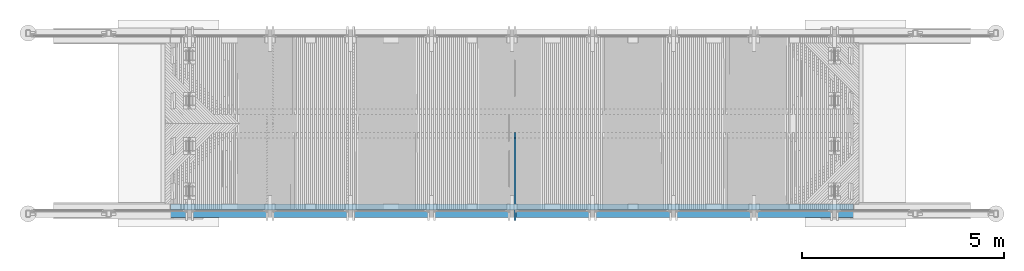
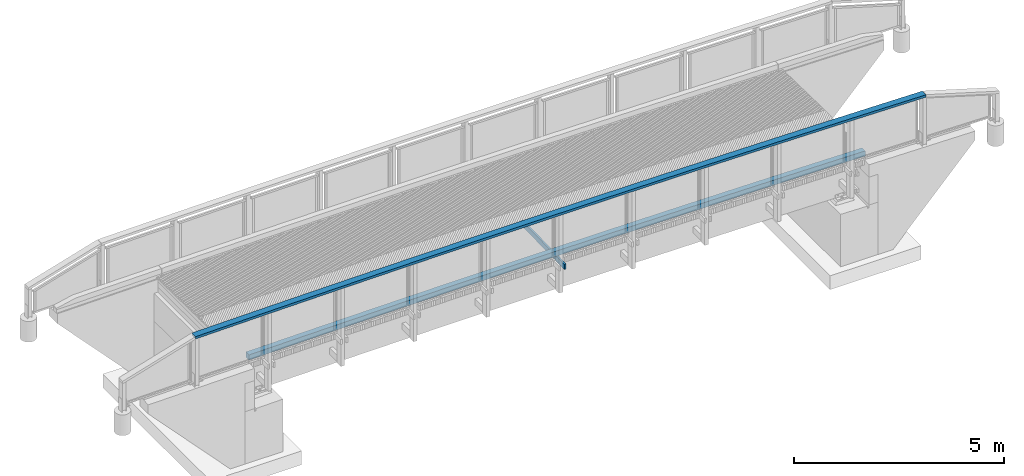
# One storey, part 28 of 65: 3 beams.
"""IFC2X3 building model written with IfcOpenShell, lengths in millimetres."""

from ifc_helpers import new_model, si_unit, frame, origin_with_axes, place, context, subcontext, project, spatial, faceted_brep, material, type_object, element, save


model = new_model("IFC2X3")

# Units and contexts
model_context = context("Model", 3, precision=1e-05, world=origin_with_axes())
body_context = subcontext(model_context, "Body", "Model", "MODEL_VIEW")
ifc_project = project(units=[si_unit("LENGTHUNIT", "METRE", prefix="MILLI"), si_unit("AREAUNIT", "SQUARE_METRE"), si_unit("VOLUMEUNIT", "CUBIC_METRE"), si_unit("MASSUNIT", "GRAM", prefix="KILO"), si_unit("TIMEUNIT", "SECOND"), si_unit("PLANEANGLEUNIT", "RADIAN"), si_unit("SOLIDANGLEUNIT", "STERADIAN"), si_unit("THERMODYNAMICTEMPERATUREUNIT", "DEGREE_CELSIUS"), si_unit("LUMINOUSINTENSITYUNIT", "LUMEN")], contexts=[model_context])

# Site, building, storey
site_placement = place(None, origin_with_axes())
site = spatial("IfcSite", under=ifc_project, at=site_placement, Name="Undefined", CompositionType="ELEMENT")
building_placement = place(site_placement, origin_with_axes())
building = spatial("IfcBuilding", under=site, at=building_placement, Name="Undefined", CompositionType="ELEMENT")
storey_placement = place(building_placement, origin_with_axes())
storey = spatial("IfcBuildingStorey", under=building, at=storey_placement, Name="Undefined", CompositionType="ELEMENT", Elevation=0.0)

# Beams
ifc_material = material(Name="TIMBER/Timber_Undefined")
beam_type_1 = type_object("IfcBeamType", Name="150*150", PredefinedType="NOTDEFINED")
beam_1_placement = place(storey_placement, frame((-101.638019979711, 20290.0049077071, 3288.62561019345), z_axis=(0.0, -1.0, 0.0), x_axis=(1.0, 0.0, 0.0)))
element("IfcBeam", 1, at=beam_1_placement, inside=storey, type_object=beam_type_1, material=ifc_material, Name="TÖRMÄYSJOHDE", ObjectType="150*150", context=body_context, shape_type="Brep", body=[
    faceted_brep([(-322.982711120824, -79.4552193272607, 75.0), (-325.088810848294, 70.5299944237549, 75.0), (-367.511180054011, 69.9228401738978, 75.0), (-368.361913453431, -80.1046921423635, 75.0), (-325.088810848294, 70.5299944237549, -75.0), (-367.511180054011, 69.9228401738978, -75.0), (-322.982711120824, -79.4552193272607, -75.0), (-368.361913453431, -80.1046921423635, -75.0), (1.01255045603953, -74.9931646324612, -75.0), (1.01255045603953, -74.9931646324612, 75.0), (-1.01255045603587, 74.9931646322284, 75.0), (-1.01255045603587, 74.9931646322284, -75.0), (323.066072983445, 79.2813189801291, -75.0), (325.010174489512, -70.7060820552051, -75.0), (325.010174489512, -70.7060820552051, 75.0), (323.066072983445, 79.2813189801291, 75.0), (647.146964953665, 83.3944562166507, 75.0), (647.146964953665, 83.3944562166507, -75.0), (649.010066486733, -66.5939728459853, -75.0), (649.010066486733, -66.5939728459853, 75.0), (973.012131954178, -62.6568382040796, 75.0), (971.230030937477, 87.3325751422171, 75.0), (971.230030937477, 87.3325751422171, -75.0), (973.012131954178, -62.6568382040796, -75.0), (1297.01627639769, -58.8946792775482, -75.0), (1297.01627639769, -58.8946792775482, 75.0), (1295.3151764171, 91.0956746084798, 75.0), (1295.3151764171, 91.0956746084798, -75.0), (1619.40230687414, 94.6837535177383, -75.0), (1621.0224053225, -55.307497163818, -75.0), (1621.0224053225, -55.307497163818, 75.0), (1619.40230687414, 94.6837535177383, 75.0), (1943.49132778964, 98.096810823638, 75.0), (1943.49132778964, 98.096810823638, -75.0), (1945.03042423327, -51.8952929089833, -75.0), (1945.03042423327, -51.8952929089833, 75.0), (2269.04023863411, -48.6580675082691, 75.0), (2267.58214464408, 101.334845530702, 75.0), (2267.58214464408, 101.334845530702, -75.0), (2269.04023863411, -48.6580675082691, -75.0), (2593.05175402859, -45.5958219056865, -75.0), (2593.05175402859, -45.5958219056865, 75.0), (2591.67466291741, 104.397856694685, 75.0), (2591.67466291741, 104.397856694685, -75.0), (2915.7687880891, 107.285843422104, -75.0), (2917.06487591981, -42.7085569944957, -75.0), (2917.06487591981, -42.7085569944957, 75.0), (2915.7687880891, 107.285843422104, 75.0), (3239.86442563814, 109.998804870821, 75.0), (3239.86442563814, 109.998804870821, -75.0), (3241.07950981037, -39.9962736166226, -75.0), (3241.07950981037, -39.9962736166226, 75.0), (3565.09556120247, -37.4589725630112, 75.0), (3563.96148104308, 112.536740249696, 75.0), (3563.96148104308, 112.536740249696, -75.0), (3565.09556120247, -37.4589725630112, -75.0), (3889.11293559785, -35.0966545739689, -75.0), (3889.11293559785, -35.0966545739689, 75.0), (3888.05985978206, 114.899648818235, 75.0), (3888.05985978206, 114.899648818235, -75.0), (4212.15946733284, 117.087529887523, -75.0), (4213.1315384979, -32.9093203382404, -75.0), (4213.1315384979, -32.9093203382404, 75.0), (4212.15946733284, 117.087529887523, 75.0), (4536.2602091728, 119.100382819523, 75.0), (4536.2602091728, 119.100382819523, -75.0), (4537.15127540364, -30.8969704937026, -75.0), (4537.15127540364, -30.8969704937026, 75.0), (4861.17205181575, -29.0596056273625, 75.0), (4860.36199077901, 120.938207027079, 75.0), (4860.36199077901, 120.938207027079, -75.0), (4861.17205181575, -29.0596056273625, -75.0), (5185.19377323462, -27.3972262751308, -75.0), (5185.19377323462, -27.3972262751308, 75.0), (5184.46471762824, 122.601001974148, 75.0), (5184.46471762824, 122.601001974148, -75.0), (5508.56829519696, 124.088767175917, -75.0), (5509.21634516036, -25.9098329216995, -75.0), (5509.21634516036, -25.9098329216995, 75.0), (5508.56829519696, 124.088767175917, 75.0), (5832.67262896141, 125.401502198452, 75.0), (5832.67262896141, 125.401502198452, -75.0), (5833.23967309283, -24.5974260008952, -75.0), (5833.23967309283, -24.5974260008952, 75.0), (6157.26366253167, -23.4600058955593, 75.0), (6156.77762439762, 126.539206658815, 75.0), (6156.77762439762, 126.539206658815, -75.0), (6157.26366253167, -23.4600058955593, -75.0), (6481.28821897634, -22.4975729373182, -75.0), (6481.28821897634, -22.4975729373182, 75.0), (6480.88318698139, 127.501880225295, 75.0), (6480.88318698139, 127.501880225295, -75.0), (6804.98922218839, 128.289522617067, -75.0), (6805.3132479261, -21.7101274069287, -75.0), (6805.3132479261, -21.7101274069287, 75.0), (6804.98922218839, 128.289522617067, 75.0), (7129.09563549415, 128.902133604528, 75.0), (7129.09563549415, 128.902133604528, -75.0), (7129.33865488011, -21.0976695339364, -75.0), (7129.33865488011, -21.0976695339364, 75.0), (7453.36434533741, -20.6601994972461, 75.0), (7453.20233237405, 129.339713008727, 75.0), (7453.20233237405, 129.339713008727, -75.0), (7453.36434533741, -20.6601994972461, -75.0), (7777.39022479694, -20.3977174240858, -75.0), (7777.39022479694, -20.3977174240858, 75.0), (7777.30921830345, 129.602260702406, 75.0), (7777.30921830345, 129.602260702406, -75.0), (8101.4161987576, 129.689776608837, -75.0), (8101.4161987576, -20.3102233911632, -75.0), (8101.4161987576, -20.3102233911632, 75.0), (8101.4161987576, 129.689776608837, 75.0), (8425.52317921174, 129.602260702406, 75.0), (8425.52317921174, 129.602260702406, -75.0), (8425.44217271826, -20.3977174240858, -75.0), (8425.44217271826, -20.3977174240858, 75.0), (8749.46805217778, -20.6601994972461, 75.0), (8749.63006514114, 129.339713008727, 75.0), (8749.63006514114, 129.339713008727, -75.0), (8749.46805217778, -20.6601994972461, -75.0), (9073.49374263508, -21.0976695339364, -75.0), (9073.49374263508, -21.0976695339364, 75.0), (9073.73676202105, 128.902133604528, 75.0), (9073.73676202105, 128.902133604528, -75.0), (9397.8431753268, 128.289522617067, -75.0), (9397.51914958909, -21.7101274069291, -75.0), (9397.51914958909, -21.7101274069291, 75.0), (9397.8431753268, 128.289522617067, 75.0), (9721.9492105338, 127.501880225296, 75.0), (9721.9492105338, 127.501880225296, -75.0), (9721.54417853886, -22.4975729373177, -75.0), (9721.54417853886, -22.4975729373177, 75.0), (10045.5687349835, -23.4600058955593, 75.0), (10046.0547731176, 126.539206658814, 75.0), (10046.0547731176, 126.539206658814, -75.0), (10045.5687349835, -23.4600058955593, -75.0), (10369.5927244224, -24.5974260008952, -75.0), (10369.5927244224, -24.5974260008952, 75.0), (10370.1597685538, 125.401502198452, 75.0), (10370.1597685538, 125.401502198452, -75.0), (10694.2641023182, 124.088767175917, -75.0), (10693.6160523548, -25.9098329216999, -75.0), (10693.6160523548, -25.9098329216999, 75.0), (10694.2641023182, 124.088767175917, 75.0), (11018.367679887, 122.601001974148, 75.0), (11018.367679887, 122.601001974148, -75.0), (11017.6386242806, -27.3972262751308, -75.0), (11017.6386242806, -27.3972262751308, 75.0), (11341.6603456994, -29.0596056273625, 75.0), (11342.4704067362, 120.938207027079, 75.0), (11342.4704067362, 120.938207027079, -75.0), (11341.6603456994, -29.0596056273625, -75.0), (11665.6811221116, -30.8969704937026, -75.0), (11665.6811221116, -30.8969704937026, 75.0), (11666.5721883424, 119.100382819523, 75.0), (11666.5721883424, 119.100382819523, -75.0), (11990.6729301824, 117.087529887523, -75.0), (11989.7008590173, -32.9093203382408, -75.0), (11989.7008590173, -32.9093203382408, 75.0), (11990.6729301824, 117.087529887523, 75.0), (12314.7725377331, 114.899648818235, 75.0), (12314.7725377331, 114.899648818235, -75.0), (12313.7194619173, -35.0966545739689, -75.0), (12313.7194619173, -35.0966545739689, 75.0), (12637.7368363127, -37.4589725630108, 75.0), (12638.8709164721, 112.536740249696, 75.0), (12638.8709164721, 112.536740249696, -75.0), (12637.7368363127, -37.4589725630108, -75.0), (12961.7528877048, -39.9962736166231, -75.0), (12961.7528877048, -39.9962736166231, 75.0), (12962.9679718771, 109.998804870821, 75.0), (12962.9679718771, 109.998804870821, -75.0), (13287.0636094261, 107.285843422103, -75.0), (13285.7675215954, -42.7085569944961, -75.0), (13285.7675215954, -42.7085569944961, 75.0), (13287.0636094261, 107.285843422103, 75.0), (13611.1577345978, 104.397856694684, 75.0), (13611.1577345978, 104.397856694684, -75.0), (13609.7806434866, -45.5958219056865, -75.0), (13609.7806434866, -45.5958219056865, 75.0), (13933.7921588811, -48.6580675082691, 75.0), (13935.2502528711, 101.334845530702, 75.0), (13935.2502528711, 101.334845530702, -75.0), (13933.7921588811, -48.6580675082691, -75.0), (14257.8019732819, -51.8952929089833, -75.0), (14257.8019732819, -51.8952929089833, 75.0), (14259.3410697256, 98.096810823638, 75.0), (14259.3410697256, 98.096810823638, -75.0), (14583.430090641, 94.6837535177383, -75.0), (14581.8099921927, -55.3074971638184, -75.0), (14581.8099921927, -55.3074971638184, 75.0), (14583.430090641, 94.6837535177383, 75.0), (14907.5172210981, 91.0956746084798, 75.0), (14907.5172210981, 91.0956746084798, -75.0), (14905.8161211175, -58.8946792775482, -75.0), (14905.8161211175, -58.8946792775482, 75.0), (15229.820265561, -62.6568382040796, 75.0), (15231.6023665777, 87.3325751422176, 75.0), (15231.6023665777, 87.3325751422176, -75.0), (15229.820265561, -62.6568382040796, -75.0), (15553.8223310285, -66.5939728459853, -75.0), (15553.8223310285, -66.5939728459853, 75.0), (15555.6854325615, 83.3944562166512, 75.0), (15555.6854325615, 83.3944562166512, -75.0), (15879.7663245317, 79.2813189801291, -75.0), (15877.8222230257, -70.7060820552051, -75.0), (15877.8222230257, -70.7060820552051, 75.0), (15879.7663245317, 79.2813189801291, 75.0), (16203.8449479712, 74.9931646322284, 75.0), (16203.8449479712, 74.9931646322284, -75.0), (16201.8198470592, -74.9931646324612, -75.0), (16201.8198470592, -74.9931646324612, 75.0), (16513.3537972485, -79.2803664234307, 75.0), (16515.4567816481, 70.7048910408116, 75.0), (16515.4567816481, 70.7048910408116, -75.0), (16513.3537972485, -79.2803664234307, -75.0), (16571.6382119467, -80.1127239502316, -75.0), (16571.6382119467, -80.1127239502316, 75.0), (16570.7872297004, 69.9147190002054, 75.0), (16570.7872297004, 69.9147190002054, -75.0)], [[[0, 1, 2, 3]], [[1, 4, 5, 2]], [[4, 6, 7, 5]], [[3, 2, 5, 7]], [[6, 0, 3, 7]], [[0, 6, 8, 9]], [[1, 0, 9, 10]], [[4, 1, 10, 11]], [[6, 4, 11, 8]], [[8, 11, 12, 13]], [[9, 8, 13, 14]], [[10, 9, 14, 15]], [[11, 10, 15, 12]], [[12, 15, 16, 17]], [[13, 12, 17, 18]], [[14, 13, 18, 19]], [[15, 14, 19, 16]], [[16, 19, 20, 21]], [[17, 16, 21, 22]], [[18, 17, 22, 23]], [[19, 18, 23, 20]], [[20, 23, 24, 25]], [[21, 20, 25, 26]], [[22, 21, 26, 27]], [[23, 22, 27, 24]], [[24, 27, 28, 29]], [[25, 24, 29, 30]], [[26, 25, 30, 31]], [[27, 26, 31, 28]], [[28, 31, 32, 33]], [[29, 28, 33, 34]], [[30, 29, 34, 35]], [[31, 30, 35, 32]], [[32, 35, 36, 37]], [[33, 32, 37, 38]], [[34, 33, 38, 39]], [[35, 34, 39, 36]], [[36, 39, 40, 41]], [[37, 36, 41, 42]], [[38, 37, 42, 43]], [[39, 38, 43, 40]], [[40, 43, 44, 45]], [[41, 40, 45, 46]], [[42, 41, 46, 47]], [[43, 42, 47, 44]], [[44, 47, 48, 49]], [[45, 44, 49, 50]], [[46, 45, 50, 51]], [[47, 46, 51, 48]], [[48, 51, 52, 53]], [[49, 48, 53, 54]], [[50, 49, 54, 55]], [[51, 50, 55, 52]], [[52, 55, 56, 57]], [[53, 52, 57, 58]], [[54, 53, 58, 59]], [[55, 54, 59, 56]], [[56, 59, 60, 61]], [[57, 56, 61, 62]], [[58, 57, 62, 63]], [[59, 58, 63, 60]], [[60, 63, 64, 65]], [[61, 60, 65, 66]], [[62, 61, 66, 67]], [[63, 62, 67, 64]], [[64, 67, 68, 69]], [[65, 64, 69, 70]], [[66, 65, 70, 71]], [[67, 66, 71, 68]], [[68, 71, 72, 73]], [[69, 68, 73, 74]], [[70, 69, 74, 75]], [[71, 70, 75, 72]], [[72, 75, 76, 77]], [[73, 72, 77, 78]], [[74, 73, 78, 79]], [[75, 74, 79, 76]], [[76, 79, 80, 81]], [[77, 76, 81, 82]], [[78, 77, 82, 83]], [[79, 78, 83, 80]], [[80, 83, 84, 85]], [[81, 80, 85, 86]], [[82, 81, 86, 87]], [[83, 82, 87, 84]], [[84, 87, 88, 89]], [[85, 84, 89, 90]], [[86, 85, 90, 91]], [[87, 86, 91, 88]], [[88, 91, 92, 93]], [[89, 88, 93, 94]], [[90, 89, 94, 95]], [[91, 90, 95, 92]], [[92, 95, 96, 97]], [[93, 92, 97, 98]], [[94, 93, 98, 99]], [[95, 94, 99, 96]], [[96, 99, 100, 101]], [[97, 96, 101, 102]], [[98, 97, 102, 103]], [[99, 98, 103, 100]], [[100, 103, 104, 105]], [[101, 100, 105, 106]], [[102, 101, 106, 107]], [[103, 102, 107, 104]], [[104, 107, 108, 109]], [[105, 104, 109, 110]], [[106, 105, 110, 111]], [[107, 106, 111, 108]], [[108, 111, 112, 113]], [[109, 108, 113, 114]], [[110, 109, 114, 115]], [[111, 110, 115, 112]], [[112, 115, 116, 117]], [[113, 112, 117, 118]], [[114, 113, 118, 119]], [[115, 114, 119, 116]], [[116, 119, 120, 121]], [[117, 116, 121, 122]], [[118, 117, 122, 123]], [[119, 118, 123, 120]], [[120, 123, 124, 125]], [[121, 120, 125, 126]], [[122, 121, 126, 127]], [[123, 122, 127, 124]], [[124, 127, 128, 129]], [[125, 124, 129, 130]], [[126, 125, 130, 131]], [[127, 126, 131, 128]], [[128, 131, 132, 133]], [[129, 128, 133, 134]], [[130, 129, 134, 135]], [[131, 130, 135, 132]], [[132, 135, 136, 137]], [[133, 132, 137, 138]], [[134, 133, 138, 139]], [[135, 134, 139, 136]], [[136, 139, 140, 141]], [[137, 136, 141, 142]], [[138, 137, 142, 143]], [[139, 138, 143, 140]], [[140, 143, 144, 145]], [[141, 140, 145, 146]], [[142, 141, 146, 147]], [[143, 142, 147, 144]], [[144, 147, 148, 149]], [[145, 144, 149, 150]], [[146, 145, 150, 151]], [[147, 146, 151, 148]], [[148, 151, 152, 153]], [[149, 148, 153, 154]], [[150, 149, 154, 155]], [[151, 150, 155, 152]], [[152, 155, 156, 157]], [[153, 152, 157, 158]], [[154, 153, 158, 159]], [[155, 154, 159, 156]], [[156, 159, 160, 161]], [[157, 156, 161, 162]], [[158, 157, 162, 163]], [[159, 158, 163, 160]], [[160, 163, 164, 165]], [[161, 160, 165, 166]], [[162, 161, 166, 167]], [[163, 162, 167, 164]], [[164, 167, 168, 169]], [[165, 164, 169, 170]], [[166, 165, 170, 171]], [[167, 166, 171, 168]], [[168, 171, 172, 173]], [[169, 168, 173, 174]], [[170, 169, 174, 175]], [[171, 170, 175, 172]], [[172, 175, 176, 177]], [[173, 172, 177, 178]], [[174, 173, 178, 179]], [[175, 174, 179, 176]], [[176, 179, 180, 181]], [[177, 176, 181, 182]], [[178, 177, 182, 183]], [[179, 178, 183, 180]], [[180, 183, 184, 185]], [[181, 180, 185, 186]], [[182, 181, 186, 187]], [[183, 182, 187, 184]], [[184, 187, 188, 189]], [[185, 184, 189, 190]], [[186, 185, 190, 191]], [[187, 186, 191, 188]], [[188, 191, 192, 193]], [[189, 188, 193, 194]], [[190, 189, 194, 195]], [[191, 190, 195, 192]], [[192, 195, 196, 197]], [[193, 192, 197, 198]], [[194, 193, 198, 199]], [[195, 194, 199, 196]], [[196, 199, 200, 201]], [[197, 196, 201, 202]], [[198, 197, 202, 203]], [[199, 198, 203, 200]], [[200, 203, 204, 205]], [[201, 200, 205, 206]], [[202, 201, 206, 207]], [[203, 202, 207, 204]], [[204, 207, 208, 209]], [[205, 204, 209, 210]], [[206, 205, 210, 211]], [[207, 206, 211, 208]], [[208, 211, 212, 213]], [[209, 208, 213, 214]], [[210, 209, 214, 215]], [[211, 210, 215, 212]], [[212, 215, 216, 217]], [[213, 212, 217, 218]], [[214, 213, 218, 219]], [[215, 214, 219, 216]], [[218, 217, 216, 219]]]),
])
beam_type_2 = type_object("IfcBeamType", Name="180*70", PredefinedType="NOTDEFINED")
beam_2_placement = place(storey_placement, frame((-2050.58316541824, 20125.0120919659, 4514.55540579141), z_axis=(0.0, -1.0, 0.0), x_axis=(1.0, 0.0, 0.0)))
element("IfcBeam", 2, at=beam_2_placement, inside=storey, type_object=beam_type_2, material=ifc_material, Name="YLÄJOHDE", ObjectType="180*70", context=body_context, shape_type="Brep", body=[
    faceted_brep([(402.548160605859, -28.4307633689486, -90.0), (402.548160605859, -28.4307633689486, 90.0), (9.583166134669, -34.8481648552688, 90.0), (9.583166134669, -34.8481648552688, -90.0), (401.428487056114, 41.5602812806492, 90.0), (9.58316627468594, 35.1611648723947, 90.0), (401.428487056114, 41.5602812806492, -90.0), (9.58316627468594, 35.1611648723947, -90.0), (803.444421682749, 47.8574786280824, -90.0), (804.517445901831, -22.1342967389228, -90.0), (804.517445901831, -22.1342967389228, 90.0), (803.444421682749, 47.8574786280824, 90.0), (1205.46446410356, 53.8867306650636, 90.0), (1205.46446410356, 53.8867306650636, -90.0), (1206.49083851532, -16.105744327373, -90.0), (1206.49083851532, -16.105744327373, 90.0), (1608.46815988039, -10.3451088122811, 90.0), (1607.4884357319, 59.6480347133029, 90.0), (1607.4884357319, 59.6480347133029, -90.0), (1608.46815988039, -10.3451088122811, -90.0), (2010.44923142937, -4.85239275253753, -90.0), (2010.44923142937, -4.85239275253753, 90.0), (2009.51615797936, 65.1413882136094, 90.0), (2009.51615797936, 65.1413882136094, -90.0), (2411.54745225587, 70.3667887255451, -90.0), (2412.43387459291, 0.372401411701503, -90.0), (2412.43387459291, 0.372401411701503, 90.0), (2411.54745225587, 70.3667887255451, 90.0), (2813.58213996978, 75.3242339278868, 90.0), (2813.58213996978, 75.3242339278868, -90.0), (2814.42191080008, 5.32927135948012, -90.0), (2814.42191080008, 5.32927135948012, 90.0), (3216.41316147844, 10.0182148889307, 90.0), (3215.62004252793, 80.0137216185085, 90.0), (3215.62004252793, 80.0137216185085, -90.0), (3216.41316147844, 10.0182148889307, -90.0), (3618.40744805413, 14.4392299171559, -90.0), (3618.40744805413, 14.4392299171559, 90.0), (3617.66098133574, 84.4352497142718, 90.0), (3617.66098133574, 84.4352497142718, -90.0), (4019.70477779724, 88.5888162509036, -90.0), (4020.40459195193, 18.5923144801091, -90.0), (4020.40459195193, 18.5923144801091, 90.0), (4019.70477779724, 88.5888162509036, 90.0), (4421.75125331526, 92.4744193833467, 90.0), (4421.75125331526, 92.4744193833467, -90.0), (4422.40441459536, 22.4774667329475, -90.0), (4422.40441459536, 22.4774667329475, 90.0), (4824.40673740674, 26.0946849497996, 90.0), (4823.80022929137, 96.0920573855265, 90.0), (4823.80022929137, 96.0920573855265, -90.0), (4824.40673740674, 26.0946849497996, -90.0), (5226.4113818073, 29.4439675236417, -90.0), (5226.4113818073, 29.4439675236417, 90.0), (5225.85152712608, 99.4417286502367, 90.0), (5225.85152712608, 99.4417286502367, -90.0), (5627.90496821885, 102.523431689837, -90.0), (5628.41816921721, 32.5253129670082, -90.0), (5628.41816921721, 32.5253129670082, 90.0), (5627.90496821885, 102.523431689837, 90.0), (6029.96037396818, 105.337165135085, 90.0), (6029.96037396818, 105.337165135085, -90.0), (6030.4269210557, 35.3387199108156, -90.0), (6030.4269210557, 35.3387199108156, 90.0), (6432.43745874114, 37.8841871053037, 90.0), (6432.01756577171, 107.882927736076, 90.0), (6432.01756577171, 107.882927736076, -90.0), (6432.43745874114, 37.8841871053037, -90.0), (6834.4496036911, 40.1617134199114, -90.0), (6834.4496036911, 40.1617134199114, 90.0), (6834.07636502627, 110.160718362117, 90.0), (6834.07636502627, 110.160718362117, -90.0), (7236.136593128, 112.170536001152, -90.0), (7236.46317732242, 42.1712978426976, -90.0), (7236.46317732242, 42.1712978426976, 90.0), (7236.136593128, 112.170536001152, 90.0), (7638.19807147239, 113.912379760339, 90.0), (7638.19807147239, 113.912379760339, -90.0), (7638.47800105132, 43.9129394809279, -90.0), (7638.47800105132, 43.9129394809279, 90.0), (8040.49389629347, 45.3866375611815, 90.0), (8040.26062145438, 115.38624886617, 90.0), (8040.26062145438, 115.38624886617, -90.0), (8040.49389629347, 45.3866375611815, -90.0), (8442.51068446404, 46.5923914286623, -90.0), (8442.51068446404, 46.5923914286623, 90.0), (8442.32406446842, 116.592142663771, 90.0), (8442.32406446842, 116.592142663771, -90.0), (8844.38822190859, 117.530060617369, -90.0), (8844.52818697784, 47.530200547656, -90.0), (8844.52818697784, 47.530200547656, 90.0), (8844.38822190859, 117.530060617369, 90.0), (9246.45291516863, 118.200002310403, 90.0), (9246.45291516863, 118.200002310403, -90.0), (9246.54622524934, 48.2000645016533, -90.0), (9246.54622524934, 48.2000645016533, 90.0), (9648.56462069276, 48.6019829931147, 90.0), (9648.51796564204, 118.601967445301, 90.0), (9648.51796564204, 118.601967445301, -90.0), (9648.56462069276, 48.6019829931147, -90.0), (10050.5831947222, 48.7359558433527, -90.0), (10050.5831947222, 48.7359558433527, 90.0), (10050.5831947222, 118.735955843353, 90.0), (10050.5831947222, 118.735955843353, -90.0), (10452.6484238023, 118.601967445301, -90.0), (10452.6017687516, 48.6019829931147, -90.0), (10452.6017687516, 48.6019829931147, 90.0), (10452.6484238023, 118.601967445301, 90.0), (10854.7134742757, 118.200002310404, 90.0), (10854.7134742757, 118.200002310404, -90.0), (10854.620164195, 48.2000645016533, -90.0), (10854.620164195, 48.2000645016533, 90.0), (11256.6382024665, 47.530200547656, 90.0), (11256.7781675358, 117.530060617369, 90.0), (11256.7781675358, 117.530060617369, -90.0), (11256.6382024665, 47.530200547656, -90.0), (11658.6557049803, 46.5923914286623, -90.0), (11658.6557049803, 46.5923914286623, 90.0), (11658.8423249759, 116.592142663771, 90.0), (11658.8423249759, 116.592142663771, -90.0), (12060.90576799, 115.386248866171, -90.0), (12060.6724931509, 45.3866375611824, -90.0), (12060.6724931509, 45.3866375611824, 90.0), (12060.90576799, 115.386248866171, 90.0), (12462.968317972, 113.912379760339, 90.0), (12462.968317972, 113.912379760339, -90.0), (12462.688388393, 43.9129394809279, -90.0), (12462.688388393, 43.9129394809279, 90.0), (12864.7032121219, 42.1712978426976, 90.0), (12865.0297963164, 112.170536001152, 90.0), (12865.0297963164, 112.170536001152, -90.0), (12864.7032121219, 42.1712978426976, -90.0), (13266.7167857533, 40.1617134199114, -90.0), (13266.7167857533, 40.1617134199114, 90.0), (13267.0900244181, 110.160718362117, 90.0), (13267.0900244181, 110.160718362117, -90.0), (13669.1488236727, 107.882927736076, -90.0), (13668.7289307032, 37.8841871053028, -90.0), (13668.7289307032, 37.8841871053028, 90.0), (13669.1488236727, 107.882927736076, 90.0), (14071.2060154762, 105.337165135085, 90.0), (14071.2060154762, 105.337165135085, -90.0), (14070.7394683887, 35.3387199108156, -90.0), (14070.7394683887, 35.3387199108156, 90.0), (14472.7482202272, 32.5253129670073, 90.0), (14473.2614212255, 102.523431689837, 90.0), (14473.2614212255, 102.523431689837, -90.0), (14472.7482202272, 32.5253129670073, -90.0), (14874.7550076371, 29.4439675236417, -90.0), (14874.7550076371, 29.4439675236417, 90.0), (14875.3148623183, 99.4417286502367, 90.0), (14875.3148623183, 99.4417286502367, -90.0), (15277.366160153, 96.0920573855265, -90.0), (15276.7596520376, 26.0946849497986, -90.0), (15276.7596520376, 26.0946849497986, 90.0), (15277.366160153, 96.0920573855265, 90.0), (15679.4151361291, 92.4744193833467, 90.0), (15679.4151361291, 92.4744193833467, -90.0), (15678.761974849, 22.4774667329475, -90.0), (15678.761974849, 22.4774667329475, 90.0), (16080.7617974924, 18.5923144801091, 90.0), (16081.4616116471, 88.5888162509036, 90.0), (16081.4616116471, 88.5888162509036, -90.0), (16080.7617974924, 18.5923144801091, -90.0), (16482.7589413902, 14.4392299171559, -90.0), (16482.7589413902, 14.4392299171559, 90.0), (16483.5054081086, 84.4352497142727, 90.0), (16483.5054081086, 84.4352497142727, -90.0), (16885.5463469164, 80.0137216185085, -90.0), (16884.7532279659, 10.0182148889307, -90.0), (16884.7532279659, 10.0182148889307, 90.0), (16885.5463469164, 80.0137216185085, 90.0), (17287.5842494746, 75.3242339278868, 90.0), (17287.5842494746, 75.3242339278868, -90.0), (17286.7444786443, 5.32927135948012, -90.0), (17286.7444786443, 5.32927135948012, 90.0), (17688.7325148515, 0.372401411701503, 90.0), (17689.6189371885, 70.3667887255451, 90.0), (17689.6189371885, 70.3667887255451, -90.0), (17688.7325148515, 0.372401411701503, -90.0), (18090.717158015, -4.85239275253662, -90.0), (18090.717158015, -4.85239275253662, 90.0), (18091.650231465, 65.1413882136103, 90.0), (18091.650231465, 65.1413882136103, -90.0), (18493.6779537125, 59.648034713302, -90.0), (18492.698229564, -10.3451088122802, -90.0), (18492.698229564, -10.3451088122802, 90.0), (18493.6779537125, 59.648034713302, 90.0), (18895.7019253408, 53.8867306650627, 90.0), (18895.7019253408, 53.8867306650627, -90.0), (18894.675550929, -16.1057443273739, -90.0), (18894.675550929, -16.1057443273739, 90.0), (19296.6489435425, -22.1342967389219, 90.0), (19297.7219677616, 47.8574786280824, 90.0), (19297.7219677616, 47.8574786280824, -90.0), (19296.6489435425, -22.1342967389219, -90.0), (19698.6182288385, -28.4307633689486, -90.0), (19698.6182288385, -28.4307633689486, 90.0), (19699.7379023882, 41.5602812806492, 90.0), (19699.7379023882, 41.5602812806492, -90.0), (20089.5831647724, 35.1938272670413, -90.0), (20089.5831646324, -34.8155024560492, -90.0), (20089.5831646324, -34.8155024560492, 90.0), (20089.5831647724, 35.1938272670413, 90.0)], [[[0, 1, 2, 3]], [[1, 4, 5, 2]], [[4, 6, 7, 5]], [[2, 5, 7, 3]], [[6, 0, 3, 7]], [[0, 6, 8, 9]], [[1, 0, 9, 10]], [[4, 1, 10, 11]], [[6, 4, 11, 8]], [[8, 11, 12, 13]], [[9, 8, 13, 14]], [[10, 9, 14, 15]], [[11, 10, 15, 12]], [[12, 15, 16, 17]], [[13, 12, 17, 18]], [[14, 13, 18, 19]], [[15, 14, 19, 16]], [[16, 19, 20, 21]], [[17, 16, 21, 22]], [[18, 17, 22, 23]], [[19, 18, 23, 20]], [[20, 23, 24, 25]], [[21, 20, 25, 26]], [[22, 21, 26, 27]], [[23, 22, 27, 24]], [[24, 27, 28, 29]], [[25, 24, 29, 30]], [[26, 25, 30, 31]], [[27, 26, 31, 28]], [[28, 31, 32, 33]], [[29, 28, 33, 34]], [[30, 29, 34, 35]], [[31, 30, 35, 32]], [[32, 35, 36, 37]], [[33, 32, 37, 38]], [[34, 33, 38, 39]], [[35, 34, 39, 36]], [[36, 39, 40, 41]], [[37, 36, 41, 42]], [[38, 37, 42, 43]], [[39, 38, 43, 40]], [[40, 43, 44, 45]], [[41, 40, 45, 46]], [[42, 41, 46, 47]], [[43, 42, 47, 44]], [[44, 47, 48, 49]], [[45, 44, 49, 50]], [[46, 45, 50, 51]], [[47, 46, 51, 48]], [[48, 51, 52, 53]], [[49, 48, 53, 54]], [[50, 49, 54, 55]], [[51, 50, 55, 52]], [[52, 55, 56, 57]], [[53, 52, 57, 58]], [[54, 53, 58, 59]], [[55, 54, 59, 56]], [[56, 59, 60, 61]], [[57, 56, 61, 62]], [[58, 57, 62, 63]], [[59, 58, 63, 60]], [[60, 63, 64, 65]], [[61, 60, 65, 66]], [[62, 61, 66, 67]], [[63, 62, 67, 64]], [[64, 67, 68, 69]], [[65, 64, 69, 70]], [[66, 65, 70, 71]], [[67, 66, 71, 68]], [[68, 71, 72, 73]], [[69, 68, 73, 74]], [[70, 69, 74, 75]], [[71, 70, 75, 72]], [[72, 75, 76, 77]], [[73, 72, 77, 78]], [[74, 73, 78, 79]], [[75, 74, 79, 76]], [[76, 79, 80, 81]], [[77, 76, 81, 82]], [[78, 77, 82, 83]], [[79, 78, 83, 80]], [[80, 83, 84, 85]], [[81, 80, 85, 86]], [[82, 81, 86, 87]], [[83, 82, 87, 84]], [[84, 87, 88, 89]], [[85, 84, 89, 90]], [[86, 85, 90, 91]], [[87, 86, 91, 88]], [[88, 91, 92, 93]], [[89, 88, 93, 94]], [[90, 89, 94, 95]], [[91, 90, 95, 92]], [[92, 95, 96, 97]], [[93, 92, 97, 98]], [[94, 93, 98, 99]], [[95, 94, 99, 96]], [[96, 99, 100, 101]], [[97, 96, 101, 102]], [[98, 97, 102, 103]], [[99, 98, 103, 100]], [[100, 103, 104, 105]], [[101, 100, 105, 106]], [[102, 101, 106, 107]], [[103, 102, 107, 104]], [[104, 107, 108, 109]], [[105, 104, 109, 110]], [[106, 105, 110, 111]], [[107, 106, 111, 108]], [[108, 111, 112, 113]], [[109, 108, 113, 114]], [[110, 109, 114, 115]], [[111, 110, 115, 112]], [[112, 115, 116, 117]], [[113, 112, 117, 118]], [[114, 113, 118, 119]], [[115, 114, 119, 116]], [[116, 119, 120, 121]], [[117, 116, 121, 122]], [[118, 117, 122, 123]], [[119, 118, 123, 120]], [[120, 123, 124, 125]], [[121, 120, 125, 126]], [[122, 121, 126, 127]], [[123, 122, 127, 124]], [[124, 127, 128, 129]], [[125, 124, 129, 130]], [[126, 125, 130, 131]], [[127, 126, 131, 128]], [[128, 131, 132, 133]], [[129, 128, 133, 134]], [[130, 129, 134, 135]], [[131, 130, 135, 132]], [[132, 135, 136, 137]], [[133, 132, 137, 138]], [[134, 133, 138, 139]], [[135, 134, 139, 136]], [[136, 139, 140, 141]], [[137, 136, 141, 142]], [[138, 137, 142, 143]], [[139, 138, 143, 140]], [[140, 143, 144, 145]], [[141, 140, 145, 146]], [[142, 141, 146, 147]], [[143, 142, 147, 144]], [[144, 147, 148, 149]], [[145, 144, 149, 150]], [[146, 145, 150, 151]], [[147, 146, 151, 148]], [[148, 151, 152, 153]], [[149, 148, 153, 154]], [[150, 149, 154, 155]], [[151, 150, 155, 152]], [[152, 155, 156, 157]], [[153, 152, 157, 158]], [[154, 153, 158, 159]], [[155, 154, 159, 156]], [[156, 159, 160, 161]], [[157, 156, 161, 162]], [[158, 157, 162, 163]], [[159, 158, 163, 160]], [[160, 163, 164, 165]], [[161, 160, 165, 166]], [[162, 161, 166, 167]], [[163, 162, 167, 164]], [[164, 167, 168, 169]], [[165, 164, 169, 170]], [[166, 165, 170, 171]], [[167, 166, 171, 168]], [[168, 171, 172, 173]], [[169, 168, 173, 174]], [[170, 169, 174, 175]], [[171, 170, 175, 172]], [[172, 175, 176, 177]], [[173, 172, 177, 178]], [[174, 173, 178, 179]], [[175, 174, 179, 176]], [[176, 179, 180, 181]], [[177, 176, 181, 182]], [[178, 177, 182, 183]], [[179, 178, 183, 180]], [[180, 183, 184, 185]], [[181, 180, 185, 186]], [[182, 181, 186, 187]], [[183, 182, 187, 184]], [[184, 187, 188, 189]], [[185, 184, 189, 190]], [[186, 185, 190, 191]], [[187, 186, 191, 188]], [[188, 191, 192, 193]], [[189, 188, 193, 194]], [[190, 189, 194, 195]], [[191, 190, 195, 192]], [[192, 195, 196, 197]], [[193, 192, 197, 198]], [[194, 193, 198, 199]], [[195, 194, 199, 196]], [[196, 199, 200, 201]], [[197, 196, 201, 202]], [[198, 197, 202, 203]], [[199, 198, 203, 200]], [[202, 201, 200, 203]]]),
])
beam_type_3 = type_object("IfcBeamType", Name="150*50", PredefinedType="NOTDEFINED")
beam_3_placement = place(storey_placement, frame((8075.17147020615, 19958.5561921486, 3087.9854593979), z_axis=(4.44979999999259e-05, -0.0199960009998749, 0.999800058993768), x_axis=(8.90000000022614e-07, 0.999800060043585, 0.0199959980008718)))
element("IfcBeam", 3, at=beam_3_placement, inside=storey, type_object=beam_type_3, material=ifc_material, Name="BEAM", ObjectType="150*50", context=body_context, shape_type="Brep", body=[
    faceted_brep([(-1.6778358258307e-07, -24.9999999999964, -74.9999999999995), (1.67790858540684e-07, -24.9999999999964, 75.0000000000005), (1.67790858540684e-07, 25.0000000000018, 74.9999999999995), (-1.6778358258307e-07, 25.0000000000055, -75.0), (2186.42645144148, -25.0000000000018, -75.0), (2047.96935255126, -25.0000000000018, 75.0000000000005), (2047.9693678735, 24.9999999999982, 75.0), (2186.42646676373, 24.9999999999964, -74.9999999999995)], [[[0, 1, 2, 3]], [[1, 0, 4, 5]], [[2, 1, 5, 6]], [[3, 2, 6, 7]], [[0, 3, 7, 4]], [[7, 6, 5, 4]]]),
])

save(model, "model.ifc")
